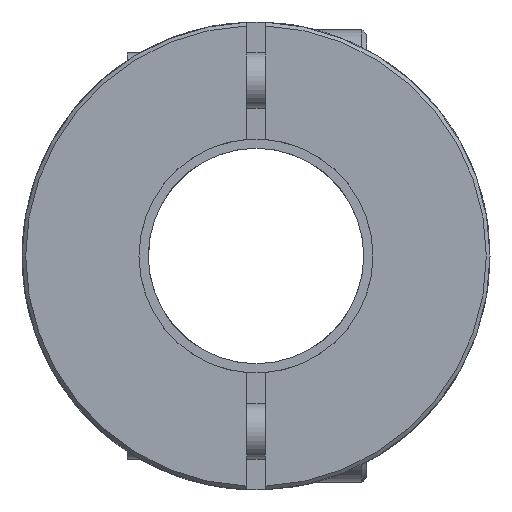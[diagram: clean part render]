
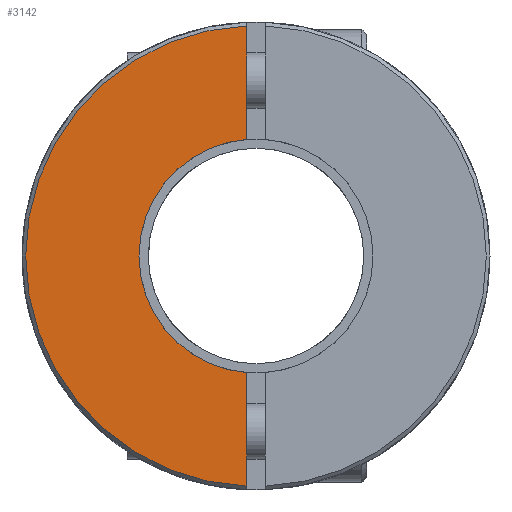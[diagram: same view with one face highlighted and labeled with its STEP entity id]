
A CAD part, front view. The second image highlights one B-rep face of the part: STEP entity #3142.
In plain terms, the highlighted planar face has unit normal (0, -1, 0).
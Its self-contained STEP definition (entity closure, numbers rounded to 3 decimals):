
#1=DIRECTION('',(0.,0.,-1.));
#2=VECTOR('',#1,6.16);
#3=CARTESIAN_POINT('',(-0.5,-19.05,12.49));
#4=LINE('',#3,#2);
#5=DIRECTION('',(0.,0.,-1.));
#6=VECTOR('',#5,6.16);
#7=CARTESIAN_POINT('',(-0.5,-19.05,-6.33));
#8=LINE('',#7,#6);
#72=CARTESIAN_POINT('',(0.,-19.05,0.));
#73=DIRECTION('',(0.,1.,0.));
#74=DIRECTION('',(-0.079,0.,-0.997));
#75=AXIS2_PLACEMENT_3D('',#72,#73,#74);
#2238=CARTESIAN_POINT('',(0.,-19.05,0.));
#2239=DIRECTION('',(0.,-1.,0.));
#2240=DIRECTION('',(-0.04,0.,0.999));
#2241=AXIS2_PLACEMENT_3D('',#2238,#2239,#2240);
#2829=CARTESIAN_POINT('',(-0.5,-19.05,12.49));
#2830=CARTESIAN_POINT('',(-0.5,-19.05,6.33));
#2831=VERTEX_POINT('',#2829);
#2832=VERTEX_POINT('',#2830);
#2833=CARTESIAN_POINT('',(-0.5,-19.05,-6.33));
#2834=CARTESIAN_POINT('',(-0.5,-19.05,-12.49));
#2835=VERTEX_POINT('',#2833);
#2836=VERTEX_POINT('',#2834);
#3127=CARTESIAN_POINT('',(0.,-19.05,0.));
#3128=DIRECTION('',(0.,1.,0.));
#3129=DIRECTION('',(1.,0.,0.));
#3130=AXIS2_PLACEMENT_3D('',#3127,#3128,#3129);
#3131=PLANE('',#3130);
#3133=ORIENTED_EDGE('',*,*,#3132,.T.);
#3135=ORIENTED_EDGE('',*,*,#3134,.F.);
#3137=ORIENTED_EDGE('',*,*,#3136,.T.);
#3139=ORIENTED_EDGE('',*,*,#3138,.F.);
#3140=EDGE_LOOP('',(#3133,#3135,#3137,#3139));
#3141=FACE_OUTER_BOUND('',#3140,.F.);
#3142=ADVANCED_FACE('',(#3141),#3131,.F.);
#76=CIRCLE('',#75,6.35);
#2242=CIRCLE('',#2241,12.5);
#3132=EDGE_CURVE('',#2831,#2832,#4,.T.);
#3134=EDGE_CURVE('',#2835,#2832,#76,.T.);
#3136=EDGE_CURVE('',#2835,#2836,#8,.T.);
#3138=EDGE_CURVE('',#2831,#2836,#2242,.T.);
